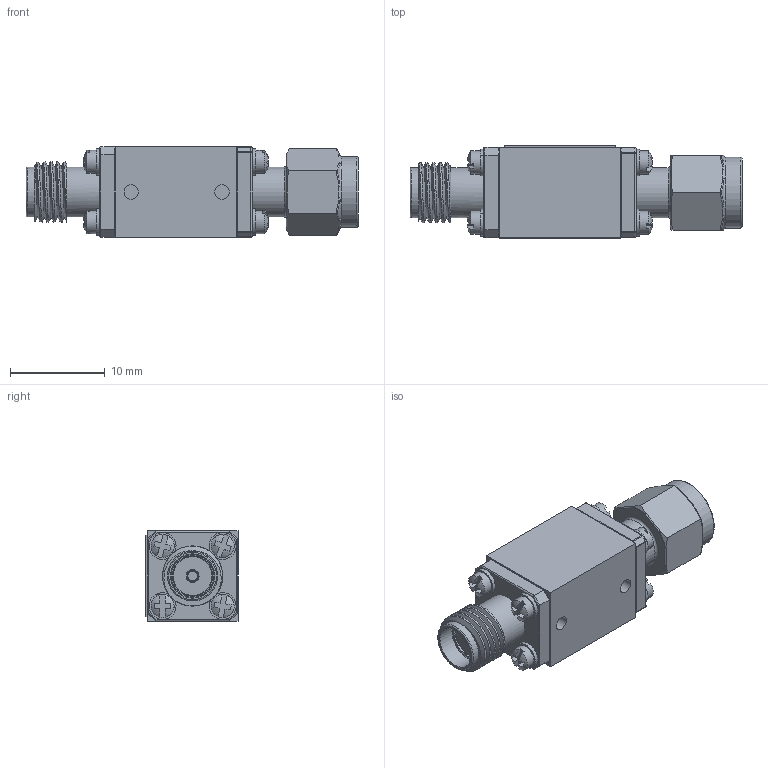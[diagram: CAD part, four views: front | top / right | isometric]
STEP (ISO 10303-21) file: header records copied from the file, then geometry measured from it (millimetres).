
FILE_DESCRIPTION (( 'STEP AP214' ), '1' );
FILE_NAME ('PL100-1103 2.STEP', '2026-03-18T12:05:43', ( '' ), ( '' ), 'SwSTEP 2.0', 'SolidWorks 2025', '' );
FILE_SCHEMA (( 'AUTOMOTIVE_DESIGN' ));
Length unit declared in the file: millimetre
Products named in the file (1): PL100-1103 2
Bounding box: 35.1 x 9.73 x 9.6 mm (x, y, z)
Surface area: 1926.7 mm2 (no closed solid volume)
Topology: 0 solids, 25 shells, 440 faces, 1721 edges, 1370 vertices
Faces by surface type: plane 249, cylinder 93, sphere 36, torus 27, bspline 22, cone 13
Full cylindrical faces by diameter (mm): 0.902 x1, 1.016 x1, 1.524 x3, 2.438 x8, 4.191 x1, 4.597 x1, 5.283 x8, 6.604 x1, 7.493 x1
Entity records: 26010 total; most frequent: CARTESIAN_POINT 8950, ORIENTED_EDGE 3131, DIRECTION 2412, EDGE_CURVE 1633, VERTEX_POINT 1344, LINE 902, VECTOR 902, AXIS2_PLACEMENT_3D 755
